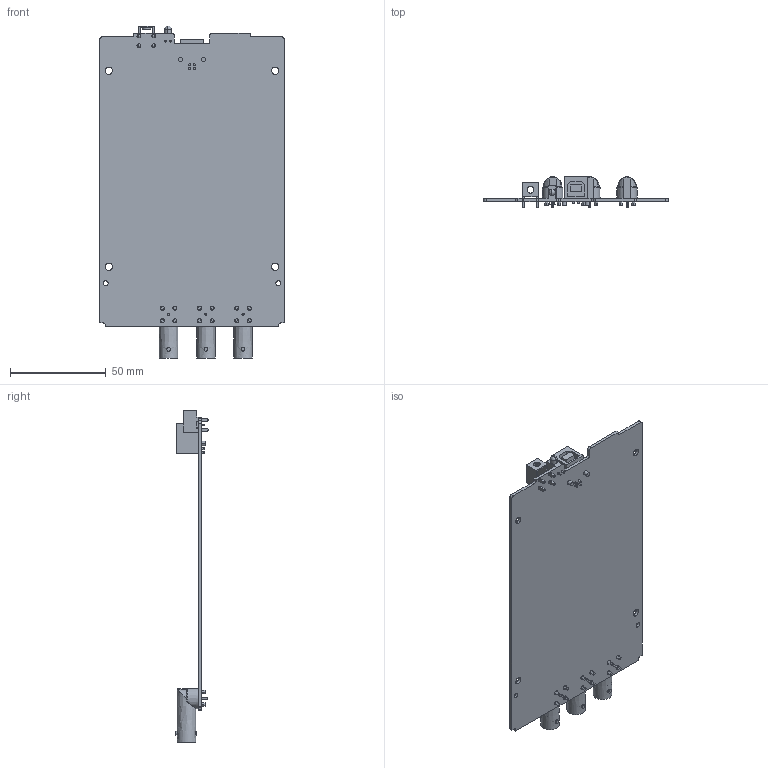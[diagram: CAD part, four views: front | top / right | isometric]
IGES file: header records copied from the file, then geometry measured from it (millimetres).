
Start section:  PTC IGES file: cd_usb-513x_oem.igs
Global section: file name: cd_usb-513x_oem.igs; native system: Pro/ENGINEER by Parametric Technology Corporation; preprocessor: 2006080; author: jjorden; organization: Unknown; date: 100708.095456; units: inch
Bounding box: 96.16 x 16.87 x 173.41 mm (x, y, z)
Surface area: 35963.9 mm2 (no closed solid volume)
Topology: 0 solids, 0 shells, 345 faces, 1902 edges, 1900 vertices
Faces by surface type: revolution 173, bspline 172
